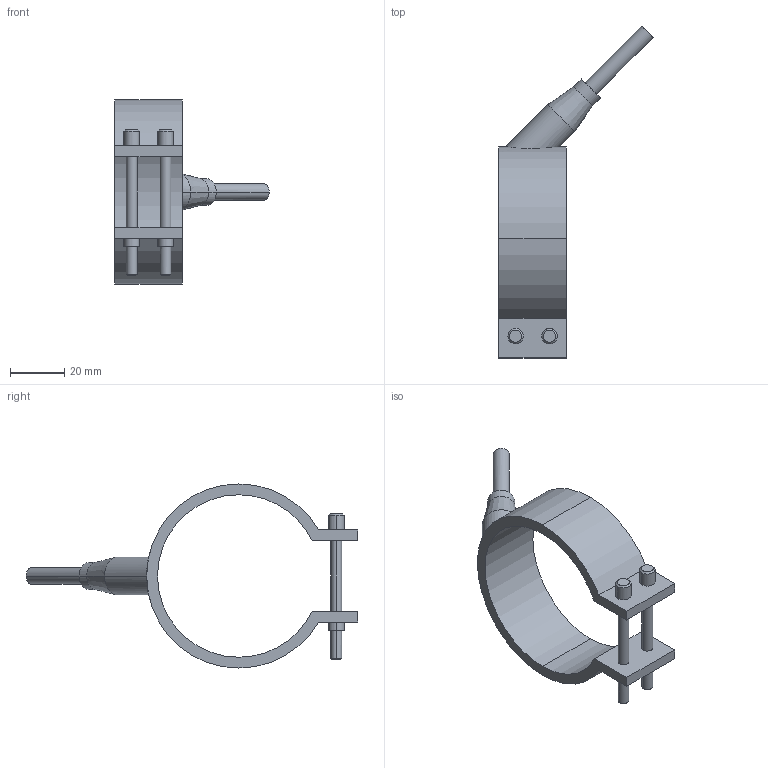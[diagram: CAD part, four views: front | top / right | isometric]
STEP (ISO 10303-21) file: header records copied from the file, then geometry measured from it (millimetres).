
FILE_DESCRIPTION(('CATIA V5 STEP Exchange'),'2;1');
FILE_NAME('C:\Users\Utente\Desktop\IO LAVORO\3D X SITO CF\X SITO\PLASTICA\RF1\29060025.stp','2021-03-27T09:55:49+00:00',('none'),('none'),'CATIA Version 5 Release 20 GA (IN-10)','CATIA V5 STEP AP203','none');
FILE_SCHEMA(('CONFIG_CONTROL_DESIGN'));
Length unit declared in the file: millimetre
Products named in the file (1): 29060025
Bounding box: 57.05 x 122.55 x 68 mm (x, y, z)
Volume: 26309.4 mm3; surface area: 14717.6 mm2
Topology: 1 solids, 1 shells, 54 faces, 126 edges, 82 vertices
Faces by surface type: cylinder 28, plane 16, cone 10
Entity records: 1744 total; most frequent: CARTESIAN_POINT 495, ORIENTED_EDGE 252, DIRECTION 214, EDGE_CURVE 126, AXIS2_PLACEMENT_3D 107, VERTEX_POINT 82, EDGE_LOOP 66, VECTOR 56
